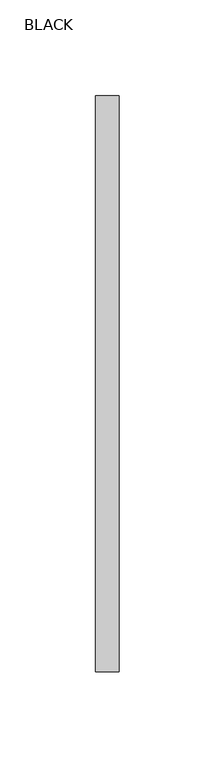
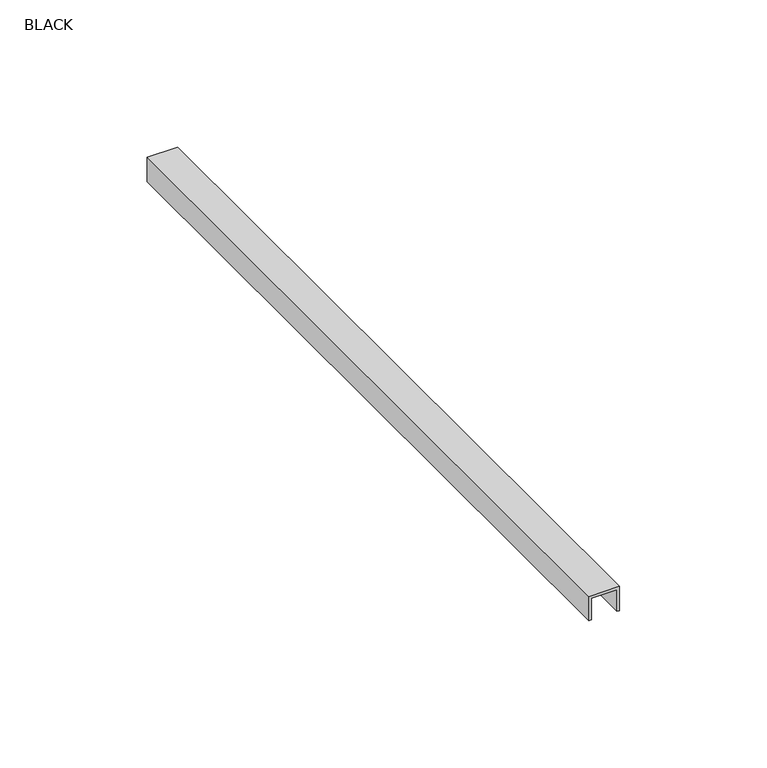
"""IFC4 building model written with IfcOpenShell, lengths in millimetres: proxy geometry, PORTOBELLO - METALLICA MET VALLEY 1,0X120 : BLACK."""

import ifcopenshell
import ifcopenshell.guid

model = None  # the IFC model being written
_history = None  # IfcOwnerHistory: only IFC2X3 demands one
_inside = {}  # id of a spatial element -> (the spatial element, [elements in it])
_under = {}  # id of a project, library or spatial element -> (it, [spatial elements below it])
_declared = {}  # id of a project -> (the project, [libraries it declares])
_typed = {}  # id of a type object -> (the type object, [elements of that type])
_made_of = {}  # id of a material, layer set ... -> (it, [elements and type objects made of it])


def new_model(schema):
    """Start an empty IFC model of exactly this schema.

    Asked for "IFC4X3", IfcOpenShell would pick the latest addendum, in which some entities
    have other attributes; the version numbers below select the first issue.
    IFC2X3 requires an IfcOwnerHistory on every rooted entity: one is made here for all.
    """
    global model, _history
    if schema == "IFC4X3":
        model = ifcopenshell.file(schema_version=(4, 3, 0, 0))
    else:
        model = ifcopenshell.file(schema=schema)
    _inside.clear()
    _under.clear()
    _declared.clear()
    _typed.clear()
    _made_of.clear()
    _history = None
    if model.schema == "IFC2X3":
        org = make("IfcOrganization", Name="unknown")
        user = make(
            "IfcPersonAndOrganization",
            ThePerson=make("IfcPerson", FamilyName="unknown"),
            TheOrganization=org,
        )
        app = make(
            "IfcApplication",
            ApplicationDeveloper=org,
            Version="unknown",
            ApplicationFullName="unknown",
            ApplicationIdentifier="unknown",
        )
        _history = make(
            "IfcOwnerHistory",
            OwningUser=user,
            OwningApplication=app,
            ChangeAction="ADDED",
            CreationDate=0,
        )
    return model


def make(cls, **values):
    """One entity of the class cls with the attributes given. An attribute that is None is left unset."""
    return model.create_entity(
        cls, **{name: value for name, value in values.items() if value is not None}
    )


def rooted(cls, **values):
    """An entity with a GlobalId (a new one), such as an element, a storey or a relation."""
    return make(cls, GlobalId=ifcopenshell.guid.new(), OwnerHistory=_history, **values)


def si_unit(unit_type, name, prefix=None):
    """IfcSIUnit, for example si_unit("LENGTHUNIT", "METRE", prefix="MILLI")."""
    return make("IfcSIUnit", UnitType=unit_type, Prefix=prefix, Name=name)


def assignment(units):
    """IfcUnitAssignment: the units of a project."""
    return None if units is None else make("IfcUnitAssignment", Units=units)


def point(xyz):
    """IfcCartesianPoint."""
    return None if xyz is None else make("IfcCartesianPoint", Coordinates=xyz)


def direction(xyz):
    """IfcDirection."""
    return None if xyz is None else make("IfcDirection", DirectionRatios=xyz)


def frame(location, z_axis=None, x_axis=None):
    """IfcAxis2Placement3D, a coordinate frame: its origin and axes. An axis left out is left unset."""
    return make(
        "IfcAxis2Placement3D",
        Location=point(location),
        Axis=direction(z_axis),
        RefDirection=direction(x_axis),
    )


def origin():
    """The frame at (0, 0, 0) with its axes left unset."""
    return frame((0.0, 0.0, 0.0))


def place(relative_to, where):
    """IfcLocalPlacement: puts the frame where relative to a parent placement (None: the world)."""
    return make(
        "IfcLocalPlacement", PlacementRelTo=relative_to, RelativePlacement=where
    )


def context(
    kind, dimensions, precision=None, world=None, true_north=None, identifier=None
):
    """IfcGeometricRepresentationContext, for example the 3D "Model" context."""
    return make(
        "IfcGeometricRepresentationContext",
        ContextIdentifier=identifier,
        ContextType=kind,
        CoordinateSpaceDimension=dimensions,
        Precision=precision,
        WorldCoordinateSystem=world,
        TrueNorth=true_north,
    )


def project(units=None, contexts=None):
    """IfcProject with its units and contexts."""
    return rooted(
        "IfcProject",
        Name="project",
        RepresentationContexts=contexts,
        UnitsInContext=assignment(units),
    )


def spatial(cls, under=None, at=None, **own):
    """A site, building, storey or space (cls), placed at a placement, below another one or the project."""
    s = rooted(cls, ObjectPlacement=at, **own)
    if under is not None:
        _under.setdefault(under.id(), (under, []))[1].append(s)
    return s


def polyline(points):
    """IfcPolyline through the points."""
    return make("IfcPolyline", Points=[point(p) for p in points])


def outline(outer, holes=None, kind="AREA"):
    """IfcArbitraryClosedProfileDef: a profile drawn as a closed curve; with holes, ...WithVoids."""
    if holes is None:
        return make("IfcArbitraryClosedProfileDef", ProfileType=kind, OuterCurve=outer)
    return make(
        "IfcArbitraryProfileDefWithVoids",
        ProfileType=kind,
        OuterCurve=outer,
        InnerCurves=holes,
    )


def extrude(swept, where, along, depth):
    """IfcExtrudedAreaSolid: the profile swept, set in the frame where, extruded along a direction by depth."""
    return make(
        "IfcExtrudedAreaSolid",
        SweptArea=swept,
        Position=where,
        ExtrudedDirection=direction(along),
        Depth=depth,
    )


def shape(context_of_items, identifier, shape_type, items):
    """IfcShapeRepresentation: the items that make up one representation, for example the "Body"."""
    return make(
        "IfcShapeRepresentation",
        ContextOfItems=context_of_items,
        RepresentationIdentifier=identifier,
        RepresentationType=shape_type,
        Items=items,
    )


def source(mapping_origin, context_of_items, identifier, shape_type, items):
    """IfcRepresentationMap: a shape defined once, which mapped items show again and again."""
    return make(
        "IfcRepresentationMap",
        MappingOrigin=mapping_origin,
        MappedRepresentation=shape(context_of_items, identifier, shape_type, items),
    )


def transform(
    local_origin,
    x_axis=None,
    y_axis=None,
    z_axis=None,
    scale=None,
    scale2=None,
    scale3=None,
    uniform=True,
):
    """IfcCartesianTransformationOperator3D, or its non-uniform kind. x_axis, y_axis, z_axis: its Axis1, 2, 3."""
    if uniform:
        return make(
            "IfcCartesianTransformationOperator3D",
            Axis1=direction(x_axis),
            Axis2=direction(y_axis),
            LocalOrigin=point(local_origin),
            Scale=scale,
            Axis3=direction(z_axis),
        )
    return make(
        "IfcCartesianTransformationOperator3DnonUniform",
        Axis1=direction(x_axis),
        Axis2=direction(y_axis),
        LocalOrigin=point(local_origin),
        Scale=scale,
        Axis3=direction(z_axis),
        Scale2=scale2,
        Scale3=scale3,
    )


def mapped(mapping_source, mapping_target):
    """IfcMappedItem: shows the shape of a source again, moved by a transform."""
    return make(
        "IfcMappedItem", MappingSource=mapping_source, MappingTarget=mapping_target
    )


def made_of(thing, what):
    """Note that an element or type object is made of a material, layer set ...; save() writes the relation."""
    if what is not None:
        _made_of.setdefault(what.id(), (what, []))[1].append(thing)
    return thing


def element(
    cls,
    number,
    at=None,
    inside=None,
    cuts=None,
    type_object=None,
    material=None,
    context=None,
    identifier="Body",
    shape_type=None,
    held_by="IfcProductDefinitionShape",
    body=None,
    shapes=None,
    **own,
):
    """One element of the class cls, such as IfcWall. Its Tag is "e" and its number.

    at: its placement. inside: the storey or other place that contains it. cuts: it is an
    opening in that element (IfcRelVoidsElement). A single representation is given by context,
    identifier, shape_type and body (its items); several are given by shapes. held_by: the class
    of the entity that holds the representations. save() writes the other relations.
    """
    e = rooted(cls, Tag="e%d" % number, ObjectPlacement=at, **own)
    if body is not None:
        shapes = [shape(context, identifier, shape_type, body)]
    if shapes is not None:
        e.Representation = make(held_by, Representations=shapes)
    if inside is not None:
        _inside.setdefault(inside.id(), (inside, []))[1].append(e)
    if cuts is not None:
        rooted(
            "IfcRelVoidsElement", RelatingBuildingElement=cuts, RelatedOpeningElement=e
        )
    if type_object is not None:
        _typed.setdefault(type_object.id(), (type_object, []))[1].append(e)
    return made_of(e, material)


def aggregate(whole, parts):
    """IfcRelAggregates: a whole, such as a stair, and the parts it consists of."""
    return rooted("IfcRelAggregates", RelatingObject=whole, RelatedObjects=parts)


def save(model, path):
    """Write the relations noted so far, then the file.

    IfcRelAggregates (storeys below a building ...), IfcRelContainedInSpatialStructure (elements
    in a storey), IfcRelDefinesByType, IfcRelAssociatesMaterial and IfcRelDeclares: one each for
    every whole, place, type object, material and project.
    """
    for whole, parts in _under.values():
        aggregate(whole, parts)
    for where, things in _inside.values():
        rooted(
            "IfcRelContainedInSpatialStructure",
            RelatedElements=things,
            RelatingStructure=where,
        )
    for kind, things in _typed.values():
        rooted("IfcRelDefinesByType", RelatedObjects=things, RelatingType=kind)
    for what, things in _made_of.values():
        rooted("IfcRelAssociatesMaterial", RelatedObjects=things, RelatingMaterial=what)
    for by, libraries in _declared.values():
        rooted("IfcRelDeclares", RelatingContext=by, RelatedDefinitions=libraries)
    model.write(path)


def black_b44c82f6(model_context):
    return source(origin(), model_context, "Body", "SweptSolid", [
        extrude(outline(polyline([(0.0, 5.0), (-9.0, 5.0), (-9.0, 6.0), (1.0, 6.0), (1.0, -6.0), (-9.0, -6.0), (-9.0, -5.0), (0.0, -5.0), (0.0, 5.0)])), frame((0.0, -600.0, 0.0), z_axis=(0.0, 1.0, 0.0), x_axis=(0.0, 0.0, 1.0)), (0.0, 0.0, 1.0), 300.0),
    ])


if __name__ == "__main__":
    model = new_model("IFC4")
    model_context = context("Model", 3, world=origin())
    ifc_project = project(units=[si_unit("LENGTHUNIT", "METRE", prefix="MILLI")], contexts=[model_context])
    site = spatial("IfcSite", under=ifc_project)
    building = spatial("IfcBuilding", under=site)
    placement = place(None, origin())
    black_shape = black_b44c82f6(model_context)
    element("IfcBuildingElementProxy", 1, Name="PORTOBELLO - METALLICA MET VALLEY 1,0X120 : BLACK", ObjectType="PORTOBELLO - METALLICA MET VALLEY 1,0X120 : BLACK", at=placement, inside=building, context=model_context, shape_type="MappedRepresentation", body=[
        mapped(black_shape, transform((0.0, 0.0, 0.0), x_axis=(1.0, 0.0, 0.0), y_axis=(0.0, 1.0, 0.0), z_axis=(0.0, 0.0, 1.0))),
    ])
    save(model, "model.ifc")
